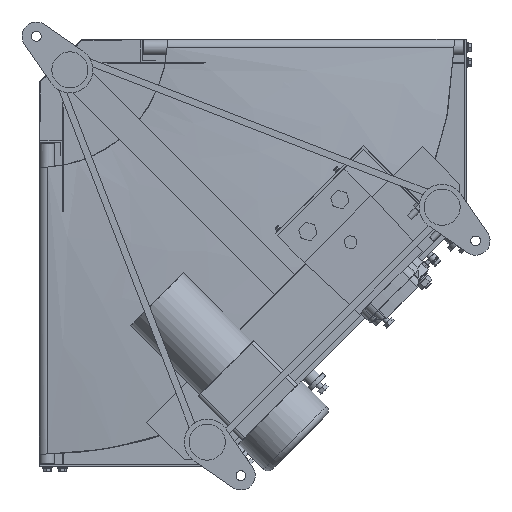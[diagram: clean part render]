
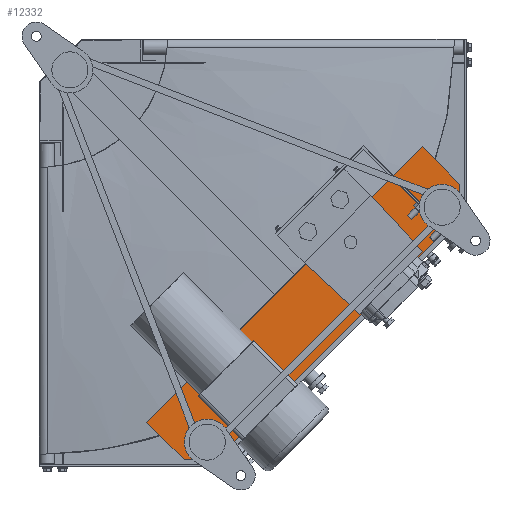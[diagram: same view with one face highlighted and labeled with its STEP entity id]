
A CAD part, front view. The second image highlights one B-rep face of the part: STEP entity #12332.
In plain terms, the highlighted planar face has unit normal (0, -1, 0).
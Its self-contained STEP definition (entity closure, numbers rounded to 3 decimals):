
#1981 = CARTESIAN_POINT ( 'NONE',  ( 141.775, -167.5, -507.349 ) ) ;
#2142 = ORIENTED_EDGE ( 'NONE', *, *, #28791, .F. ) ;
#2555 = CARTESIAN_POINT ( 'NONE',  ( 507.349, -167.5, -141.775 ) ) ;
#4722 = FACE_OUTER_BOUND ( 'NONE', #14161, .T. ) ;
#6264 = EDGE_CURVE ( 'NONE', #47955, #27977, #44132, .T. ) ;
#6442 = CARTESIAN_POINT ( 'NONE',  ( 191.272, -167.5, -556.847 ) ) ;
#6751 = LINE ( 'NONE', #20268, #42732 ) ;
#9143 = ORIENTED_EDGE ( 'NONE', *, *, #15090, .F. ) ;
#9833 = VECTOR ( 'NONE', #30218, 1000. ) ;
#11102 = ORIENTED_EDGE ( 'NONE', *, *, #6264, .F. ) ;
#12332 = ADVANCED_FACE ( 'NONE', ( #4722 ), #31203, .F. ) ;
#12604 = VERTEX_POINT ( 'NONE', #21260 ) ;
#12875 = VERTEX_POINT ( 'NONE', #23633 ) ;
#13176 = DIRECTION ( 'NONE',  ( 0.707, 0., 0.707 ) ) ;
#13192 = DIRECTION ( 'NONE',  ( -0.707, 0., 0.707 ) ) ;
#13434 = CARTESIAN_POINT ( 'NONE',  ( 141.775, -167.5, -507.349 ) ) ;
#14161 = EDGE_LOOP ( 'NONE', ( #11102, #9143, #33002, #2142, #44338, #29453 ) ) ;
#14593 = VERTEX_POINT ( 'NONE', #13434 ) ;
#14624 = DIRECTION ( 'NONE',  ( 0., 1., 0. ) ) ;
#14661 = CARTESIAN_POINT ( 'NONE',  ( 556.847, -167.5, -233.699 ) ) ;
#15090 = EDGE_CURVE ( 'NONE', #12875, #47955, #22728, .T. ) ;
#16536 = LINE ( 'NONE', #1981, #30401 ) ;
#17816 = VECTOR ( 'NONE', #47317, 1000. ) ;
#20268 = CARTESIAN_POINT ( 'NONE',  ( 233.699, -167.5, -556.847 ) ) ;
#20420 = DIRECTION ( 'NONE',  ( -0.707, 0., -0.707 ) ) ;
#21260 = CARTESIAN_POINT ( 'NONE',  ( 191.272, -167.5, -556.847 ) ) ;
#22375 = CARTESIAN_POINT ( 'NONE',  ( 0., -167.5, 0. ) ) ;
#22728 = LINE ( 'NONE', #2555, #23332 ) ;
#22905 = EDGE_CURVE ( 'NONE', #14593, #12875, #16536, .T. ) ;
#23332 = VECTOR ( 'NONE', #32102, 1000. ) ;
#23633 = CARTESIAN_POINT ( 'NONE',  ( 507.349, -167.5, -141.775 ) ) ;
#25919 = LINE ( 'NONE', #6442, #17816 ) ;
#27492 = CARTESIAN_POINT ( 'NONE',  ( 141.775, -167.5, -507.349 ) ) ;
#27939 = VERTEX_POINT ( 'NONE', #31020 ) ;
#27977 = VERTEX_POINT ( 'NONE', #14661 ) ;
#28791 = EDGE_CURVE ( 'NONE', #12604, #14593, #46879, .T. ) ;
#29453 = ORIENTED_EDGE ( 'NONE', *, *, #37542, .F. ) ;
#30218 = DIRECTION ( 'NONE',  ( 0., 0., -1. ) ) ;
#30401 = VECTOR ( 'NONE', #13176, 1000. ) ;
#30523 = CARTESIAN_POINT ( 'NONE',  ( 556.847, -167.5, -233.699 ) ) ;
#31020 = CARTESIAN_POINT ( 'NONE',  ( 233.699, -167.5, -556.847 ) ) ;
#31203 = PLANE ( 'NONE',  #42711 ) ;
#32102 = DIRECTION ( 'NONE',  ( 0.707, 0., -0.707 ) ) ;
#33002 = ORIENTED_EDGE ( 'NONE', *, *, #22905, .F. ) ;
#33597 = DIRECTION ( 'NONE',  ( 0., 0., 1. ) ) ;
#37542 = EDGE_CURVE ( 'NONE', #27977, #27939, #6751, .T. ) ;
#41107 = VECTOR ( 'NONE', #13192, 1000. ) ;
#42711 = AXIS2_PLACEMENT_3D ( 'NONE', #22375, #14624, #33597 ) ;
#42732 = VECTOR ( 'NONE', #20420, 1000. ) ;
#43094 = CARTESIAN_POINT ( 'NONE',  ( 556.847, -167.5, -191.272 ) ) ;
#44132 = LINE ( 'NONE', #30523, #9833 ) ;
#44338 = ORIENTED_EDGE ( 'NONE', *, *, #44466, .F. ) ;
#44466 = EDGE_CURVE ( 'NONE', #27939, #12604, #25919, .T. ) ;
#46879 = LINE ( 'NONE', #27492, #41107 ) ;
#47317 = DIRECTION ( 'NONE',  ( -1., 0., 0. ) ) ;
#47955 = VERTEX_POINT ( 'NONE', #43094 ) ;
